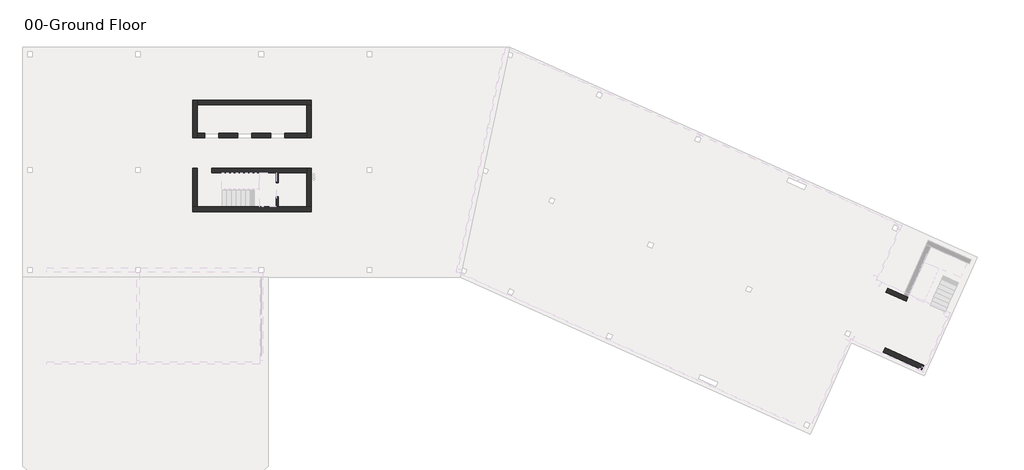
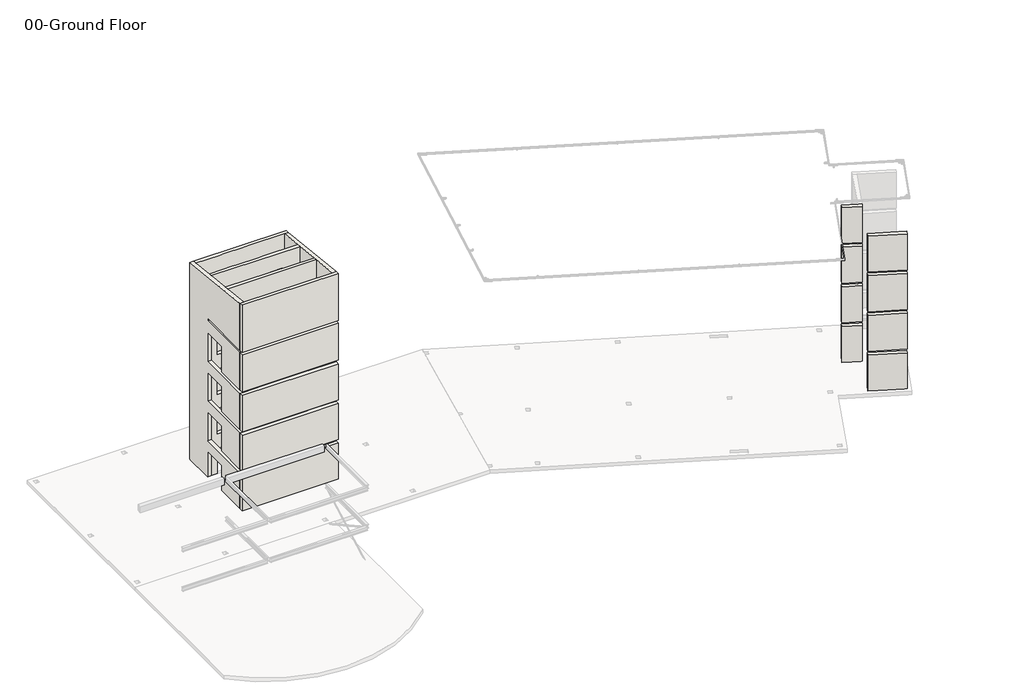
# One storey, part 1 of 5: 9 walls.
"""IFC4 building model written with IfcOpenShell, lengths in millimetres."""

from ifc_helpers import new_model, si_unit, frame, origin, origin_with_axes, place, context, project, spatial, polyline, outline, extrude, faceted_brep, element, save

model = new_model("IFC4")

# Units and contexts
model_context = context("Model", 3, world=origin())
ifc_project = project(units=[si_unit("LENGTHUNIT", "METRE", prefix="MILLI")], contexts=[model_context])

# Site, building, storey
site = spatial("IfcSite", under=ifc_project)
building = spatial("IfcBuilding", under=site)
storey = spatial("IfcBuildingStorey", under=building, Name="00-Ground Floor", Elevation=0.0)

# Walls
placement = place(None, origin())
element("IfcWall", 1, ObjectType="Jumpform RC Wall 12\"", at=placement, inside=storey, context=model_context, shape_type="Brep", body=[
    faceted_brep([(18249.9, -9893.3, 0.0), (17945.1, -9893.3, 0.0), (16103.6, -9893.3, 0.0), (15951.2, -9893.3, 0.0), (10858.5, -9893.3, 0.0), (10553.7, -9893.3, 0.0), (10553.7, -9893.3, 3048.0), (10858.5, -9893.3, 3048.0), (12446.0, -9893.3, 3048.0), (15951.2, -9893.3, 3048.0), (16103.6, -9893.3, 3048.0), (17945.1, -9893.3, 3048.0), (18249.9, -9893.3, 3048.0), (10553.7, -10198.1, 0.0), (18249.9, -10198.1, 0.0), (18249.9, -10198.1, 3048.0), (10553.7, -10198.1, 3048.0)], [[[0, 1, 2, 3, 4, 5, 6, 7, 8, 9, 10, 11, 12]], [[13, 14, 15, 16]], [[5, 4, 3, 2, 1, 0, 14, 13]], [[5, 13, 16, 6]], [[14, 0, 12, 15]], [[8, 7, 6, 16, 15, 12, 11, 10, 9]]]),
    faceted_brep([(10553.7, -9893.3, 17368.9404497), (10858.5, -9893.3, 17368.9404497), (17945.1, -9893.3, 17368.9404497), (18249.9, -9893.3, 17368.9404497), (18249.9, -9893.3, 13411.2), (17945.1, -9893.3, 13411.2), (16103.6, -9893.3, 13411.2), (15951.2, -9893.3, 13411.2), (12446.0, -9893.3, 13411.2), (10858.5, -9893.3, 13411.2), (10553.7, -9893.3, 13411.2), (18249.9, -10198.1, 17400.9762206), (10553.7, -10198.1, 17400.9762206), (10553.7, -10198.1, 13411.2), (18249.9, -10198.1, 13411.2)], [[[0, 1, 2, 3, 4, 5, 6, 7, 8, 9, 10]], [[11, 12, 13, 14]], [[12, 0, 10, 13]], [[3, 11, 14, 4]], [[3, 2, 1, 0, 12, 11]], [[10, 9, 8, 7, 6, 5, 4, 14, 13]]]),
    faceted_brep([(10553.7, -9893.3, 13208.0), (10858.5, -9893.3, 13208.0), (12446.0, -9893.3, 13208.0), (15951.2, -9893.3, 13208.0), (16103.6, -9893.3, 13208.0), (17945.1, -9893.3, 13208.0), (18249.9, -9893.3, 13208.0), (18249.9, -9893.3, 10058.4), (17945.1, -9893.3, 10058.4), (16103.6, -9893.3, 10058.4), (15951.2, -9893.3, 10058.4), (12446.0, -9893.3, 10058.4), (10858.5, -9893.3, 10058.4), (10553.7, -9893.3, 10058.4), (18249.9, -10198.1, 13208.0), (10553.7, -10198.1, 13208.0), (10553.7, -10198.1, 10058.4), (18249.9, -10198.1, 10058.4)], [[[0, 1, 2, 3, 4, 5, 6, 7, 8, 9, 10, 11, 12, 13]], [[14, 15, 16, 17]], [[15, 0, 13, 16]], [[6, 14, 17, 7]], [[2, 1, 0, 15, 14, 6, 5, 4, 3]], [[13, 12, 11, 10, 9, 8, 7, 17, 16]]]),
    faceted_brep([(10553.7, -9893.3, 9753.6), (10858.5, -9893.3, 9753.6), (12446.0, -9893.3, 9753.6), (15951.2, -9893.3, 9753.6), (16103.6, -9893.3, 9753.6), (17945.1, -9893.3, 9753.6), (18249.9, -9893.3, 9753.6), (18249.9, -9893.3, 6705.6), (17945.1, -9893.3, 6705.6), (16103.6, -9893.3, 6705.6), (15951.2, -9893.3, 6705.6), (12446.0, -9893.3, 6705.6), (10858.5, -9893.3, 6705.6), (10553.7, -9893.3, 6705.6), (18249.9, -10198.1, 9753.6), (10553.7, -10198.1, 9753.6), (10553.7, -10198.1, 6705.6), (18249.9, -10198.1, 6705.6)], [[[0, 1, 2, 3, 4, 5, 6, 7, 8, 9, 10, 11, 12, 13]], [[14, 15, 16, 17]], [[15, 0, 13, 16]], [[6, 14, 17, 7]], [[2, 1, 0, 15, 14, 6, 5, 4, 3]], [[13, 12, 11, 10, 9, 8, 7, 17, 16]]]),
    faceted_brep([(10553.7, -9893.3, 6400.8), (10858.5, -9893.3, 6400.8), (12446.0, -9893.3, 6400.8), (15951.2, -9893.3, 6400.8), (16103.6, -9893.3, 6400.8), (17945.1, -9893.3, 6400.8), (18249.9, -9893.3, 6400.8), (18249.9, -9893.3, 3352.8), (17945.1, -9893.3, 3352.8), (16103.6, -9893.3, 3352.8), (15951.2, -9893.3, 3352.8), (12446.0, -9893.3, 3352.8), (10858.5, -9893.3, 3352.8), (10553.7, -9893.3, 3352.8), (18249.9, -10198.1, 6400.8), (10553.7, -10198.1, 6400.8), (10553.7, -10198.1, 3352.8), (18249.9, -10198.1, 3352.8)], [[[0, 1, 2, 3, 4, 5, 6, 7, 8, 9, 10, 11, 12, 13]], [[14, 15, 16, 17]], [[15, 0, 13, 16]], [[6, 14, 17, 7]], [[2, 1, 0, 15, 14, 6, 5, 4, 3]], [[13, 12, 11, 10, 9, 8, 7, 17, 16]]]),
])
element("IfcWall", 2, ObjectType="Jumpform RC Wall 12\"", at=placement, inside=storey, context=model_context, shape_type="Brep", body=[
    faceted_brep([(10858.5, -2984.5, 16642.7963091), (10858.5, -3289.3, 16674.83208), (10858.5, -5118.1, 16867.0467055), (10858.5, -5422.9, 16899.0824764), (10858.5, -7378.7, 17104.6453397), (10858.5, -7683.5, 17136.6811106), (10858.5, -9893.3, 17368.9404497), (10858.5, -9893.3, 13411.2), (10858.5, -5422.9, 13411.2), (10858.5, -5422.9, 13208.0), (10858.5, -7378.7, 13208.0), (10858.5, -7683.5, 13208.0), (10858.5, -9893.3, 13208.0), (10858.5, -9893.3, 10058.4), (10858.5, -7378.7, 10058.4), (10858.5, -7378.7, 12192.0), (10858.5, -5422.9, 12192.0), (10858.5, -5422.9, 9753.6), (10858.5, -7378.7, 9753.6), (10858.5, -7683.5, 9753.6), (10858.5, -9893.3, 9753.6), (10858.5, -9893.3, 6705.6), (10858.5, -7378.7, 6705.6), (10858.5, -7378.7, 8839.2), (10858.5, -5422.9, 8839.2), (10858.5, -5422.9, 6400.8), (10858.5, -7378.7, 6400.8), (10858.5, -7683.5, 6400.8), (10858.5, -9893.3, 6400.8), (10858.5, -9893.3, 3352.8), (10858.5, -7378.7, 3352.8), (10858.5, -7378.7, 5486.4), (10858.5, -5422.9, 5486.4), (10858.5, -5422.9, 3048.0), (10858.5, -7378.7, 3048.0), (10858.5, -7683.5, 3048.0), (10858.5, -9893.3, 3048.0), (10858.5, -9893.3, 0.0), (10858.5, -7378.7, 0.0), (10858.5, -7378.7, 2133.6), (10858.5, -5422.9, 2133.6), (10858.5, -5422.9, 0.0), (10858.5, -5118.1, 0.0), (10858.5, -3289.3, 0.0), (10858.5, -2984.5, 0.0), (10858.5, -2984.5, 3048.0), (10858.5, -2984.5, 3352.8), (10858.5, -2984.5, 6400.8), (10858.5, -2984.5, 6705.6), (10858.5, -2984.5, 9753.6), (10858.5, -2984.5, 10058.4), (10553.7, -9893.3, 17368.9404497), (10553.7, -2984.5, 16642.7963091), (10553.7, -2984.5, 10058.4), (10553.7, -2984.5, 9753.6), (10553.7, -2984.5, 6705.6), (10553.7, -2984.5, 6400.8), (10553.7, -2984.5, 3352.8), (10553.7, -2984.5, 3048.0), (10553.7, -2984.5, 0.0), (10553.7, -5422.9, 0.0), (10553.7, -5422.9, 2133.6), (10553.7, -7378.7, 2133.6), (10553.7, -7378.7, 0.0), (10553.7, -9893.3, 0.0), (10553.7, -9893.3, 3048.0), (10553.7, -5422.9, 3048.0), (10553.7, -5422.9, 3352.8), (10553.7, -5422.9, 5486.4), (10553.7, -7378.7, 5486.4), (10553.7, -7378.7, 3352.8), (10553.7, -9893.3, 3352.8), (10553.7, -9893.3, 6400.8), (10553.7, -5422.9, 6400.8), (10553.7, -5422.9, 6705.6), (10553.7, -5422.9, 8839.2), (10553.7, -7378.7, 8839.2), (10553.7, -7378.7, 6705.6), (10553.7, -9893.3, 6705.6), (10553.7, -9893.3, 9753.6), (10553.7, -5422.9, 9753.6), (10553.7, -5422.9, 10058.4), (10553.7, -5422.9, 12192.0), (10553.7, -7378.7, 12192.0), (10553.7, -7378.7, 10058.4), (10553.7, -9893.3, 10058.4), (10553.7, -9893.3, 13208.0), (10553.7, -5422.9, 13208.0), (10553.7, -5422.9, 13411.2), (10553.7, -9893.3, 13411.2)], [[[0, 1, 2, 3, 4, 5, 6, 7, 8, 9, 10, 11, 12, 13, 14, 15, 16, 17, 18, 19, 20, 21, 22, 23, 24, 25, 26, 27, 28, 29, 30, 31, 32, 33, 34, 35, 36, 37, 38, 39, 40, 41, 42, 43, 44, 45, 46, 47, 48, 49, 50]], [[51, 52, 53, 54, 55, 56, 57, 58, 59, 60, 61, 62, 63, 64, 65, 66, 67, 68, 69, 70, 71, 72, 73, 74, 75, 76, 77, 78, 79, 80, 81, 82, 83, 84, 85, 86, 87, 88, 89]], [[37, 64, 63, 38]], [[59, 44, 43, 42, 41, 60]], [[64, 37, 36, 65]], [[6, 51, 89, 7]], [[12, 86, 85, 13]], [[20, 79, 78, 21]], [[28, 72, 71, 29]], [[44, 59, 58, 57, 56, 55, 54, 53, 52, 0, 50, 49, 48, 47, 46, 45]], [[6, 5, 4, 3, 2, 1, 0, 52, 51]], [[41, 40, 61, 60]], [[39, 38, 63, 62]], [[40, 39, 62, 61]], [[32, 68, 67, 66, 33]], [[31, 30, 70, 69]], [[32, 31, 69, 68]], [[24, 75, 74, 73, 25]], [[23, 22, 77, 76]], [[24, 23, 76, 75]], [[16, 82, 81, 80, 17]], [[15, 14, 84, 83]], [[16, 15, 83, 82]], [[9, 87, 86, 12, 11, 10]], [[88, 8, 7, 89]], [[87, 9, 8, 88]], [[17, 80, 79, 20, 19, 18]], [[14, 13, 85, 84]], [[25, 73, 72, 28, 27, 26]], [[22, 21, 78, 77]], [[33, 66, 65, 36, 35, 34]], [[30, 29, 71, 70]]]),
])
element("IfcWall", 3, ObjectType="Jumpform RC Wall 12\"", at=placement, inside=storey, context=model_context, shape_type="Brep", body=[
    faceted_brep([(10858.5, -3289.3, 0.0), (17945.1, -3289.3, 0.0), (18249.9, -3289.3, 0.0), (18249.9, -3289.3, 3048.0), (17945.1, -3289.3, 3048.0), (17030.7, -3289.3, 3048.0), (17030.7, -3289.3, 3352.8), (17945.1, -3289.3, 3352.8), (18249.9, -3289.3, 3352.8), (18249.9, -3289.3, 6400.8), (17945.1, -3289.3, 6400.8), (17030.7, -3289.3, 6400.8), (17030.7, -3289.3, 6705.6), (17945.1, -3289.3, 6705.6), (18249.9, -3289.3, 6705.6), (18249.9, -3289.3, 9753.6), (17945.1, -3289.3, 9753.6), (17030.7, -3289.3, 9753.6), (17030.7, -3289.3, 10058.4), (17945.1, -3289.3, 10058.4), (18249.9, -3289.3, 10058.4), (18249.9, -3289.3, 13208.0), (17945.1, -3289.3, 13208.0), (17030.7, -3289.3, 13208.0), (17030.7, -3289.3, 13411.2), (17945.1, -3289.3, 13411.2), (18249.9, -3289.3, 13411.2), (18249.9, -3289.3, 16674.83208), (17945.1, -3289.3, 16674.83208), (15151.1, -3289.3, 16674.83208), (14846.3, -3289.3, 16674.83208), (13017.5, -3289.3, 16674.83208), (12712.7, -3289.3, 16674.83208), (10858.5, -3289.3, 16674.83208), (18249.9, -2984.5, 0.0), (10858.5, -2984.5, 0.0), (10858.5, -2984.5, 3048.0), (10858.5, -2984.5, 3352.8), (10858.5, -2984.5, 6400.8), (10858.5, -2984.5, 6705.6), (10858.5, -2984.5, 9753.6), (10858.5, -2984.5, 10058.4), (10858.5, -2984.5, 16642.7963091), (18249.9, -2984.5, 16642.7963091), (18249.9, -2984.5, 13411.2), (17030.7, -2984.5, 13411.2), (17030.7, -2984.5, 13208.0), (18249.9, -2984.5, 13208.0), (18249.9, -2984.5, 10058.4), (17030.7, -2984.5, 10058.4), (17030.7, -2984.5, 9753.6), (18249.9, -2984.5, 9753.6), (18249.9, -2984.5, 6705.6), (17030.7, -2984.5, 6705.6), (17030.7, -2984.5, 6400.8), (18249.9, -2984.5, 6400.8), (18249.9, -2984.5, 3352.8), (17030.7, -2984.5, 3352.8), (17030.7, -2984.5, 3048.0), (18249.9, -2984.5, 3048.0)], [[[0, 1, 2, 3, 4, 5, 6, 7, 8, 9, 10, 11, 12, 13, 14, 15, 16, 17, 18, 19, 20, 21, 22, 23, 24, 25, 26, 27, 28, 29, 30, 31, 32, 33]], [[34, 35, 36, 37, 38, 39, 40, 41, 42, 43, 44, 45, 46, 47, 48, 49, 50, 51, 52, 53, 54, 55, 56, 57, 58, 59]], [[2, 1, 0, 35, 34]], [[0, 33, 42, 41, 40, 39, 38, 37, 36, 35]], [[43, 27, 26, 44]], [[47, 21, 20, 48]], [[51, 15, 14, 52]], [[55, 9, 8, 56]], [[2, 34, 59, 3]], [[33, 32, 31, 30, 29, 28, 27, 43, 42]], [[46, 23, 22, 21, 47]], [[24, 45, 44, 26, 25]], [[23, 46, 45, 24]], [[50, 17, 16, 15, 51]], [[18, 49, 48, 20, 19]], [[17, 50, 49, 18]], [[54, 11, 10, 9, 55]], [[12, 53, 52, 14, 13]], [[11, 54, 53, 12]], [[58, 5, 4, 3, 59]], [[6, 57, 56, 8, 7]], [[5, 58, 57, 6]]]),
])
element("IfcWall", 4, ObjectType="Jumpform RC Wall 12\"", at=placement, inside=storey, context=model_context, shape_type="Brep", body=[
    faceted_brep([(17945.1, -9893.3, 17368.9404497), (17945.1, -7683.5, 17136.6811106), (17945.1, -7378.7, 17104.6453397), (17945.1, -5422.9, 16899.0824764), (17945.1, -5118.1, 16867.0467055), (17945.1, -3289.3, 16674.83208), (17945.1, -3289.3, 13411.2), (17945.1, -5118.1, 13411.2), (17945.1, -5422.9, 13411.2), (17945.1, -5422.9, 15544.8), (17945.1, -7378.7, 15544.8), (17945.1, -7378.7, 13411.2), (17945.1, -9893.3, 13411.2), (18249.9, -3289.3, 16674.83208), (18249.9, -9893.3, 17368.9404497), (18249.9, -9893.3, 13411.2), (18249.9, -7378.7, 13411.2), (18249.9, -7378.7, 15544.8), (18249.9, -5422.9, 15544.8), (18249.9, -5422.9, 13411.2), (18249.9, -3289.3, 13411.2)], [[[0, 1, 2, 3, 4, 5, 6, 7, 8, 9, 10, 11, 12]], [[13, 14, 15, 16, 17, 18, 19, 20]], [[14, 0, 12, 15]], [[5, 13, 20, 6]], [[5, 4, 3, 2, 1, 0, 14, 13]], [[12, 11, 16, 15]], [[20, 19, 8, 7, 6]], [[19, 18, 9, 8]], [[17, 16, 11, 10]], [[18, 17, 10, 9]]]),
    faceted_brep([(17945.1, -5422.9, 0.0), (17945.1, -5422.9, 2133.6), (17945.1, -7378.7, 2133.6), (17945.1, -7378.7, 0.0), (17945.1, -7683.5, 0.0), (17945.1, -9893.3, 0.0), (17945.1, -9893.3, 3048.0), (17945.1, -5422.9, 3048.0), (17945.1, -5118.1, 3048.0), (17945.1, -3289.3, 3048.0), (17945.1, -3289.3, 0.0), (17945.1, -5118.1, 0.0), (18249.9, -5422.9, 2133.6), (18249.9, -5422.9, 0.0), (18249.9, -3289.3, 0.0), (18249.9, -3289.3, 3048.0), (18249.9, -9893.3, 3048.0), (18249.9, -9893.3, 0.0), (18249.9, -7378.7, 0.0), (18249.9, -7378.7, 2133.6)], [[[0, 1, 2, 3, 4, 5, 6, 7, 8, 9, 10, 11]], [[12, 13, 14, 15, 16, 17, 18, 19]], [[10, 14, 13, 0, 11]], [[17, 5, 4, 3, 18]], [[5, 17, 16, 6]], [[14, 10, 9, 15]], [[13, 12, 1, 0]], [[19, 18, 3, 2]], [[12, 19, 2, 1]], [[9, 8, 7, 6, 16, 15]]]),
    faceted_brep([(17945.1, -5422.9, 3352.8), (17945.1, -5422.9, 5486.4), (17945.1, -7378.7, 5486.4), (17945.1, -7378.7, 3352.8), (17945.1, -9893.3, 3352.8), (17945.1, -9893.3, 6400.8), (17945.1, -5422.9, 6400.8), (17945.1, -5118.1, 6400.8), (17945.1, -3289.3, 6400.8), (17945.1, -3289.3, 3352.8), (17945.1, -5118.1, 3352.8), (18249.9, -5422.9, 5486.4), (18249.9, -5422.9, 3352.8), (18249.9, -3289.3, 3352.8), (18249.9, -3289.3, 6400.8), (18249.9, -9893.3, 6400.8), (18249.9, -9893.3, 3352.8), (18249.9, -7378.7, 3352.8), (18249.9, -7378.7, 5486.4)], [[[0, 1, 2, 3, 4, 5, 6, 7, 8, 9, 10]], [[11, 12, 13, 14, 15, 16, 17, 18]], [[15, 5, 4, 16]], [[8, 14, 13, 9]], [[12, 11, 1, 0]], [[18, 17, 3, 2]], [[11, 18, 2, 1]], [[8, 7, 6, 5, 15, 14]], [[4, 3, 17, 16]], [[0, 10, 9, 13, 12]]]),
    faceted_brep([(17945.1, -5422.9, 6705.6), (17945.1, -5422.9, 8839.2), (17945.1, -7378.7, 8839.2), (17945.1, -7378.7, 6705.6), (17945.1, -9893.3, 6705.6), (17945.1, -9893.3, 9753.6), (17945.1, -5422.9, 9753.6), (17945.1, -5118.1, 9753.6), (17945.1, -3289.3, 9753.6), (17945.1, -3289.3, 6705.6), (17945.1, -5118.1, 6705.6), (18249.9, -5422.9, 8839.2), (18249.9, -5422.9, 6705.6), (18249.9, -3289.3, 6705.6), (18249.9, -3289.3, 9753.6), (18249.9, -9893.3, 9753.6), (18249.9, -9893.3, 6705.6), (18249.9, -7378.7, 6705.6), (18249.9, -7378.7, 8839.2)], [[[0, 1, 2, 3, 4, 5, 6, 7, 8, 9, 10]], [[11, 12, 13, 14, 15, 16, 17, 18]], [[15, 5, 4, 16]], [[8, 14, 13, 9]], [[12, 11, 1, 0]], [[18, 17, 3, 2]], [[11, 18, 2, 1]], [[8, 7, 6, 5, 15, 14]], [[4, 3, 17, 16]], [[0, 10, 9, 13, 12]]]),
    faceted_brep([(17945.1, -5422.9, 10058.4), (17945.1, -5422.9, 12192.0), (17945.1, -7378.7, 12192.0), (17945.1, -7378.7, 10058.4), (17945.1, -9893.3, 10058.4), (17945.1, -9893.3, 13208.0), (17945.1, -5422.9, 13208.0), (17945.1, -5118.1, 13208.0), (17945.1, -3289.3, 13208.0), (17945.1, -3289.3, 10058.4), (17945.1, -5118.1, 10058.4), (18249.9, -5422.9, 12192.0), (18249.9, -5422.9, 10058.4), (18249.9, -3289.3, 10058.4), (18249.9, -3289.3, 13208.0), (18249.9, -9893.3, 13208.0), (18249.9, -9893.3, 10058.4), (18249.9, -7378.7, 10058.4), (18249.9, -7378.7, 12192.0)], [[[0, 1, 2, 3, 4, 5, 6, 7, 8, 9, 10]], [[11, 12, 13, 14, 15, 16, 17, 18]], [[15, 5, 4, 16]], [[8, 14, 13, 9]], [[12, 11, 1, 0]], [[18, 17, 3, 2]], [[11, 18, 2, 1]], [[8, 7, 6, 5, 15, 14]], [[4, 3, 17, 16]], [[0, 10, 9, 13, 12]]]),
])
element("IfcWall", 5, ObjectType="Jumpform RC Wall 12\"", at=placement, inside=storey, context=model_context, shape_type="Brep", body=[
    faceted_brep([(17945.1, -5422.9, 16899.0824764), (10858.5, -5422.9, 16899.0824764), (10858.5, -5422.9, 13411.2), (10858.5, -5422.9, 13208.0), (10858.5, -5422.9, 12192.0), (10858.5, -5422.9, 10058.4), (10858.5, -5422.9, 9753.6), (10858.5, -5422.9, 8839.2), (10858.5, -5422.9, 6705.6), (10858.5, -5422.9, 6400.8), (10858.5, -5422.9, 5486.4), (10858.5, -5422.9, 3352.8), (10858.5, -5422.9, 3048.0), (10858.5, -5422.9, 2133.6), (10858.5, -5422.9, 0.0), (11328.4, -5422.9, 0.0), (11328.4, -5422.9, 2133.6), (12242.8, -5422.9, 2133.6), (12242.8, -5422.9, 0.0), (13474.7, -5422.9, 0.0), (13474.7, -5422.9, 2133.6), (14389.1, -5422.9, 2133.6), (14389.1, -5422.9, 0.0), (15608.3, -5422.9, 0.0), (15608.3, -5422.9, 2133.6), (16522.7, -5422.9, 2133.6), (16522.7, -5422.9, 0.0), (17945.1, -5422.9, 0.0), (17945.1, -5422.9, 2133.6), (17945.1, -5422.9, 3048.0), (17030.7, -5422.9, 3048.0), (17030.7, -5422.9, 3352.8), (17945.1, -5422.9, 3352.8), (17945.1, -5422.9, 5486.4), (17945.1, -5422.9, 6400.8), (17030.7, -5422.9, 6400.8), (17030.7, -5422.9, 6705.6), (17945.1, -5422.9, 6705.6), (17945.1, -5422.9, 8839.2), (17945.1, -5422.9, 9753.6), (17030.7, -5422.9, 9753.6), (17030.7, -5422.9, 10058.4), (17945.1, -5422.9, 10058.4), (17945.1, -5422.9, 12192.0), (17945.1, -5422.9, 13208.0), (17030.7, -5422.9, 13208.0), (17030.7, -5422.9, 13411.2), (17945.1, -5422.9, 13411.2), (17945.1, -5422.9, 15544.8), (15608.3, -5422.9, 3352.8), (15608.3, -5422.9, 5486.4), (16522.7, -5422.9, 5486.4), (16522.7, -5422.9, 3352.8), (13474.7, -5422.9, 3352.8), (13474.7, -5422.9, 5486.4), (14389.1, -5422.9, 5486.4), (14389.1, -5422.9, 3352.8), (11328.4, -5422.9, 3352.8), (11328.4, -5422.9, 5486.4), (12242.8, -5422.9, 5486.4), (12242.8, -5422.9, 3352.8), (15608.3, -5422.9, 6705.6), (15608.3, -5422.9, 8839.2), (16522.7, -5422.9, 8839.2), (16522.7, -5422.9, 6705.6), (13474.7, -5422.9, 6705.6), (13474.7, -5422.9, 8839.2), (14389.1, -5422.9, 8839.2), (14389.1, -5422.9, 6705.6), (11328.4, -5422.9, 6705.6), (11328.4, -5422.9, 8839.2), (12242.8, -5422.9, 8839.2), (12242.8, -5422.9, 6705.6), (15608.3, -5422.9, 10058.4), (15608.3, -5422.9, 12192.0), (16522.7, -5422.9, 12192.0), (16522.7, -5422.9, 10058.4), (13474.7, -5422.9, 10058.4), (13474.7, -5422.9, 12192.0), (14389.1, -5422.9, 12192.0), (14389.1, -5422.9, 10058.4), (11328.4, -5422.9, 10058.4), (11328.4, -5422.9, 12192.0), (12242.8, -5422.9, 12192.0), (12242.8, -5422.9, 10058.4), (15608.3, -5422.9, 13411.2), (15608.3, -5422.9, 15544.8), (16522.7, -5422.9, 15544.8), (16522.7, -5422.9, 13411.2), (13474.7, -5422.9, 13411.2), (13474.7, -5422.9, 15544.8), (14389.1, -5422.9, 15544.8), (14389.1, -5422.9, 13411.2), (11328.4, -5422.9, 13411.2), (11328.4, -5422.9, 15544.8), (12242.8, -5422.9, 15544.8), (12242.8, -5422.9, 13411.2), (10858.5, -5118.1, 0.0), (10858.5, -5118.1, 16867.0467055), (12712.7, -5118.1, 16867.0467055), (13017.5, -5118.1, 16867.0467055), (14846.3, -5118.1, 16867.0467055), (15151.1, -5118.1, 16867.0467055), (17945.1, -5118.1, 16867.0467055), (17945.1, -5118.1, 13411.2), (17030.7, -5118.1, 13411.2), (17030.7, -5118.1, 13208.0), (17945.1, -5118.1, 13208.0), (17945.1, -5118.1, 10058.4), (17030.7, -5118.1, 10058.4), (17030.7, -5118.1, 9753.6), (17945.1, -5118.1, 9753.6), (17945.1, -5118.1, 6705.6), (17030.7, -5118.1, 6705.6), (17030.7, -5118.1, 6400.8), (17945.1, -5118.1, 6400.8), (17945.1, -5118.1, 3352.8), (17030.7, -5118.1, 3352.8), (17030.7, -5118.1, 3048.0), (17945.1, -5118.1, 3048.0), (17945.1, -5118.1, 0.0), (16522.7, -5118.1, 0.0), (16522.7, -5118.1, 2133.6), (15608.3, -5118.1, 2133.6), (15608.3, -5118.1, 0.0), (15151.1, -5118.1, 0.0), (14846.3, -5118.1, 0.0), (14389.1, -5118.1, 0.0), (14389.1, -5118.1, 2133.6), (13474.7, -5118.1, 2133.6), (13474.7, -5118.1, 0.0), (13017.5, -5118.1, 0.0), (12712.7, -5118.1, 0.0), (12242.8, -5118.1, 0.0), (12242.8, -5118.1, 2133.6), (11328.4, -5118.1, 2133.6), (11328.4, -5118.1, 0.0), (15608.3, -5118.1, 5486.4), (15608.3, -5118.1, 3352.8), (16522.7, -5118.1, 3352.8), (16522.7, -5118.1, 5486.4), (13474.7, -5118.1, 5486.4), (13474.7, -5118.1, 3352.8), (14389.1, -5118.1, 3352.8), (14389.1, -5118.1, 5486.4), (11328.4, -5118.1, 5486.4), (11328.4, -5118.1, 3352.8), (12242.8, -5118.1, 3352.8), (12242.8, -5118.1, 5486.4), (15608.3, -5118.1, 8839.2), (15608.3, -5118.1, 6705.6), (16522.7, -5118.1, 6705.6), (16522.7, -5118.1, 8839.2), (13474.7, -5118.1, 8839.2), (13474.7, -5118.1, 6705.6), (14389.1, -5118.1, 6705.6), (14389.1, -5118.1, 8839.2), (11328.4, -5118.1, 8839.2), (11328.4, -5118.1, 6705.6), (12242.8, -5118.1, 6705.6), (12242.8, -5118.1, 8839.2), (15608.3, -5118.1, 12192.0), (15608.3, -5118.1, 10058.4), (16522.7, -5118.1, 10058.4), (16522.7, -5118.1, 12192.0), (13474.7, -5118.1, 12192.0), (13474.7, -5118.1, 10058.4), (14389.1, -5118.1, 10058.4), (14389.1, -5118.1, 12192.0), (11328.4, -5118.1, 12192.0), (11328.4, -5118.1, 10058.4), (12242.8, -5118.1, 10058.4), (12242.8, -5118.1, 12192.0), (15608.3, -5118.1, 15544.8), (15608.3, -5118.1, 13411.2), (16522.7, -5118.1, 13411.2), (16522.7, -5118.1, 15544.8), (13474.7, -5118.1, 15544.8), (13474.7, -5118.1, 13411.2), (14389.1, -5118.1, 13411.2), (14389.1, -5118.1, 15544.8), (11328.4, -5118.1, 15544.8), (11328.4, -5118.1, 13411.2), (12242.8, -5118.1, 13411.2), (12242.8, -5118.1, 15544.8), (17945.1, -5168.9, 0.0), (10858.5, -5168.9, 0.0)], [[[0, 1, 2, 3, 4, 5, 6, 7, 8, 9, 10, 11, 12, 13, 14, 15, 16, 17, 18, 19, 20, 21, 22, 23, 24, 25, 26, 27, 28, 29, 30, 31, 32, 33, 34, 35, 36, 37, 38, 39, 40, 41, 42, 43, 44, 45, 46, 47, 48], [49, 50, 51, 52], [53, 54, 55, 56], [57, 58, 59, 60], [61, 62, 63, 64], [65, 66, 67, 68], [69, 70, 71, 72], [73, 74, 75, 76], [77, 78, 79, 80], [81, 82, 83, 84], [85, 86, 87, 88], [89, 90, 91, 92], [93, 94, 95, 96]], [[97, 98, 99, 100, 101, 102, 103, 104, 105, 106, 107, 108, 109, 110, 111, 112, 113, 114, 115, 116, 117, 118, 119, 120, 121, 122, 123, 124, 125, 126, 127, 128, 129, 130, 131, 132, 133, 134, 135, 136], [137, 138, 139, 140], [141, 142, 143, 144], [145, 146, 147, 148], [149, 150, 151, 152], [153, 154, 155, 156], [157, 158, 159, 160], [161, 162, 163, 164], [165, 166, 167, 168], [169, 170, 171, 172], [173, 174, 175, 176], [177, 178, 179, 180], [181, 182, 183, 184]], [[18, 133, 132, 131, 130, 19]], [[22, 127, 126, 125, 124, 23]], [[120, 185, 27, 26, 121]], [[14, 186, 97, 136, 15]], [[98, 97, 186, 14, 13, 12, 11, 10, 9, 8, 7, 6, 5, 4, 3, 2, 1]], [[103, 0, 48, 47, 104]], [[107, 44, 43, 42, 108]], [[111, 39, 38, 37, 112]], [[115, 34, 33, 32, 116]], [[27, 185, 120, 119, 29, 28]], [[1, 0, 103, 102, 101, 100, 99, 98]], [[136, 135, 16, 15]], [[134, 133, 18, 17]], [[135, 134, 17, 16]], [[130, 129, 20, 19]], [[128, 127, 22, 21]], [[129, 128, 21, 20]], [[124, 123, 24, 23]], [[122, 121, 26, 25]], [[123, 122, 25, 24]], [[138, 137, 50, 49]], [[139, 138, 49, 52]], [[140, 139, 52, 51]], [[137, 140, 51, 50]], [[142, 141, 54, 53]], [[143, 142, 53, 56]], [[144, 143, 56, 55]], [[141, 144, 55, 54]], [[146, 145, 58, 57]], [[147, 146, 57, 60]], [[148, 147, 60, 59]], [[145, 148, 59, 58]], [[150, 149, 62, 61]], [[151, 150, 61, 64]], [[152, 151, 64, 63]], [[149, 152, 63, 62]], [[154, 153, 66, 65]], [[155, 154, 65, 68]], [[156, 155, 68, 67]], [[153, 156, 67, 66]], [[158, 157, 70, 69]], [[159, 158, 69, 72]], [[160, 159, 72, 71]], [[157, 160, 71, 70]], [[162, 161, 74, 73]], [[163, 162, 73, 76]], [[164, 163, 76, 75]], [[161, 164, 75, 74]], [[166, 165, 78, 77]], [[167, 166, 77, 80]], [[168, 167, 80, 79]], [[165, 168, 79, 78]], [[170, 169, 82, 81]], [[171, 170, 81, 84]], [[172, 171, 84, 83]], [[169, 172, 83, 82]], [[174, 173, 86, 85]], [[175, 174, 85, 88]], [[176, 175, 88, 87]], [[173, 176, 87, 86]], [[178, 177, 90, 89]], [[179, 178, 89, 92]], [[180, 179, 92, 91]], [[177, 180, 91, 90]], [[182, 181, 94, 93]], [[183, 182, 93, 96]], [[184, 183, 96, 95]], [[181, 184, 95, 94]], [[106, 45, 44, 107]], [[46, 105, 104, 47]], [[45, 106, 105, 46]], [[110, 40, 39, 111]], [[41, 109, 108, 42]], [[40, 110, 109, 41]], [[114, 35, 34, 115]], [[36, 113, 112, 37]], [[35, 114, 113, 36]], [[118, 30, 29, 119]], [[31, 117, 116, 32]], [[30, 118, 117, 31]]]),
])
element("IfcWall", 6, ObjectType="Jumpform RC Wall 12\"", at=placement, inside=storey, context=model_context, shape_type="Brep", body=[
    faceted_brep([(17945.1, -7683.5, 17136.6811106), (10858.5, -7683.5, 17136.6811106), (10858.5, -7683.5, 15544.8), (11772.9, -7683.5, 15544.8), (11772.9, -7683.5, 13411.2), (12446.0, -7683.5, 13411.2), (12446.0, -7683.5, 13208.0), (10858.5, -7683.5, 13208.0), (10858.5, -7683.5, 12192.0), (11772.9, -7683.5, 12192.0), (11772.9, -7683.5, 10058.4), (12446.0, -7683.5, 10058.4), (12446.0, -7683.5, 9753.6), (10858.5, -7683.5, 9753.6), (10858.5, -7683.5, 8839.2), (11772.9, -7683.5, 8839.2), (11772.9, -7683.5, 6705.6), (12446.0, -7683.5, 6705.6), (12446.0, -7683.5, 6400.8), (10858.5, -7683.5, 6400.8), (10858.5, -7683.5, 5486.4), (11772.9, -7683.5, 5486.4), (11772.9, -7683.5, 3352.8), (12446.0, -7683.5, 3352.8), (12446.0, -7683.5, 3048.0), (10858.5, -7683.5, 3048.0), (10858.5, -7683.5, 2133.6), (11772.9, -7683.5, 2133.6), (11772.9, -7683.5, 0.0), (15951.2, -7683.5, 0.0), (16103.6, -7683.5, 0.0), (17945.1, -7683.5, 0.0), (17945.1, -7683.5, 3048.0), (16103.6, -7683.5, 3048.0), (15951.2, -7683.5, 3048.0), (15951.2, -7683.5, 3352.8), (16103.6, -7683.5, 3352.8), (17945.1, -7683.5, 3352.8), (17945.1, -7683.5, 6400.8), (16103.6, -7683.5, 6400.8), (15951.2, -7683.5, 6400.8), (15951.2, -7683.5, 6705.6), (16103.6, -7683.5, 6705.6), (17945.1, -7683.5, 6705.6), (17945.1, -7683.5, 9753.6), (16103.6, -7683.5, 9753.6), (15951.2, -7683.5, 9753.6), (15951.2, -7683.5, 10058.4), (16103.6, -7683.5, 10058.4), (17945.1, -7683.5, 10058.4), (17945.1, -7683.5, 13208.0), (16103.6, -7683.5, 13208.0), (15951.2, -7683.5, 13208.0), (15951.2, -7683.5, 13411.2), (16103.6, -7683.5, 13411.2), (17945.1, -7683.5, 13411.2), (10858.5, -7378.7, 17104.6453397), (17945.1, -7378.7, 17104.6453397), (17945.1, -7378.7, 15544.8), (17945.1, -7378.7, 13411.2), (11772.9, -7378.7, 13411.2), (11772.9, -7378.7, 15544.8), (10858.5, -7378.7, 15544.8), (17945.1, -7378.7, 0.0), (11772.9, -7378.7, 0.0), (11772.9, -7378.7, 2133.6), (10858.5, -7378.7, 2133.6), (10858.5, -7378.7, 3048.0), (17945.1, -7378.7, 3048.0), (17945.1, -7378.7, 2133.6), (11772.9, -7378.7, 3352.8), (11772.9, -7378.7, 5486.4), (10858.5, -7378.7, 5486.4), (10858.5, -7378.7, 6400.8), (17945.1, -7378.7, 6400.8), (17945.1, -7378.7, 5486.4), (17945.1, -7378.7, 3352.8), (11772.9, -7378.7, 6705.6), (11772.9, -7378.7, 8839.2), (10858.5, -7378.7, 8839.2), (10858.5, -7378.7, 9753.6), (17945.1, -7378.7, 9753.6), (17945.1, -7378.7, 8839.2), (17945.1, -7378.7, 6705.6), (11772.9, -7378.7, 10058.4), (11772.9, -7378.7, 12192.0), (10858.5, -7378.7, 12192.0), (10858.5, -7378.7, 13208.0), (17945.1, -7378.7, 13208.0), (17945.1, -7378.7, 12192.0), (17945.1, -7378.7, 10058.4), (12446.0, -7633.3081651, 13208.0), (15951.2, -7633.3081651, 13208.0), (15951.2, -7633.3081651, 13411.2), (12446.0, -7633.3081651, 13411.2), (12446.0, -7633.3081651, 3048.0), (15951.2, -7633.3081651, 3048.0), (15951.2, -7633.3081651, 3352.8), (12446.0, -7633.3081651, 3352.8), (12446.0, -7633.3081651, 6400.8), (15951.2, -7633.3081651, 6400.8), (15951.2, -7633.3081651, 6705.6), (12446.0, -7633.3081651, 6705.6), (12446.0, -7633.3081651, 9753.6), (15951.2, -7633.3081651, 9753.6), (15951.2, -7633.3081651, 10058.4), (12446.0, -7633.3081651, 10058.4)], [[[0, 1, 2, 3, 4, 5, 6, 7, 8, 9, 10, 11, 12, 13, 14, 15, 16, 17, 18, 19, 20, 21, 22, 23, 24, 25, 26, 27, 28, 29, 30, 31, 32, 33, 34, 35, 36, 37, 38, 39, 40, 41, 42, 43, 44, 45, 46, 47, 48, 49, 50, 51, 52, 53, 54, 55]], [[56, 57, 58, 59, 60, 61, 62]], [[63, 64, 65, 66, 67, 68, 69]], [[70, 71, 72, 73, 74, 75, 76]], [[77, 78, 79, 80, 81, 82, 83]], [[84, 85, 86, 87, 88, 89, 90]], [[63, 31, 30, 29, 28, 64]], [[1, 56, 62, 2]], [[66, 26, 25, 67]], [[72, 20, 19, 73]], [[79, 14, 13, 80]], [[86, 8, 7, 87]], [[31, 63, 69, 68, 32]], [[57, 0, 55, 59, 58]], [[88, 50, 49, 90, 89]], [[37, 76, 75, 74, 38]], [[43, 83, 82, 81, 44]], [[1, 0, 57, 56]], [[27, 65, 64, 28]], [[65, 27, 26, 66]], [[71, 70, 22, 21]], [[72, 71, 21, 20]], [[78, 77, 16, 15]], [[79, 78, 15, 14]], [[85, 84, 10, 9]], [[86, 85, 9, 8]], [[61, 60, 4, 3]], [[62, 61, 3, 2]], [[7, 6, 91, 92, 52, 51, 50, 88, 87]], [[5, 4, 60, 59, 55, 54, 53, 93, 94]], [[25, 24, 95, 96, 34, 33, 32, 68, 67]], [[23, 22, 70, 76, 37, 36, 35, 97, 98]], [[19, 18, 99, 100, 40, 39, 38, 74, 73]], [[17, 16, 77, 83, 43, 42, 41, 101, 102]], [[103, 104, 46, 45, 44, 81, 80, 13, 12]], [[105, 106, 11, 10, 84, 90, 49, 48, 47]], [[92, 91, 94, 93]], [[94, 91, 6, 5]], [[92, 93, 53, 52]], [[96, 95, 98, 97]], [[98, 95, 24, 23]], [[96, 97, 35, 34]], [[100, 99, 102, 101]], [[102, 99, 18, 17]], [[100, 101, 41, 40]], [[104, 103, 106, 105]], [[106, 103, 12, 11]], [[104, 105, 47, 46]]]),
])
element("IfcWall", 7, ObjectType="6\" Blockwork with render", at=placement, inside=storey, context=model_context, shape_type="SweptSolid", body=[
    extrude(outline(polyline([(-9245.6, 2133.6), (-9245.6, 0.0), (-9893.3, 0.0), (-9893.3, 3048.0), (-7683.5, 3048.0), (-7683.5, 0.0), (-8331.2, 0.0), (-8331.2, 2133.6), (-9245.6, 2133.6)])), frame((15951.2, 0.0, 0.0), z_axis=(1.0, 0.0, 0.0), x_axis=(0.0, 1.0, 0.0)), (0.0, 0.0, 1.0), 152.4),
])
element("IfcWall", 8, ObjectType="RC Wall 12\"", at=placement, inside=storey, context=model_context, shape_type="Brep", body=[
    faceted_brep([(55480.1253608, -15435.8210954, 0.0), (56785.8662551, -16022.3571121, 0.0), (56785.8662551, -16022.3571121, 3048.0), (55480.1253608, -15435.8210954, 3048.0), (56910.7599136, -15744.3200389, 0.0), (56632.7228404, -15619.4263804, 0.0), (55605.0190193, -15157.7840222, 0.0), (55605.0190193, -15157.7840222, 3048.0), (56632.7228404, -15619.4263804, 3048.0), (56910.7599136, -15744.3200389, 3048.0)], [[[0, 1, 2, 3]], [[4, 5, 6, 7, 8, 9]], [[1, 0, 6, 5, 4]], [[6, 0, 3, 7]], [[1, 4, 9, 2]], [[3, 2, 9, 8, 7]]]),
    faceted_brep([(56785.8662551, -16022.3571121, 13106.4), (55480.1253608, -15435.8210954, 13106.4), (55480.1253608, -15435.8210954, 10058.4), (56785.8662551, -16022.3571121, 10058.4), (55605.0190193, -15157.7840222, 13106.4), (56632.7228404, -15619.4263804, 13106.4), (56910.7599136, -15744.3200389, 13106.4), (56910.7599136, -15744.3200389, 10058.4), (56632.7228404, -15619.4263804, 10058.4), (55605.0190193, -15157.7840222, 10058.4)], [[[0, 1, 2, 3]], [[4, 5, 6, 7, 8, 9]], [[1, 4, 9, 2]], [[6, 0, 3, 7]], [[1, 0, 6, 5, 4]], [[3, 2, 9, 8, 7]]]),
    faceted_brep([(56785.8662551, -16022.3571121, 9753.6), (55480.1253608, -15435.8210954, 9753.6), (55480.1253608, -15435.8210954, 6705.6), (56785.8662551, -16022.3571121, 6705.6), (55605.0190193, -15157.7840222, 9753.6), (56632.7228404, -15619.4263804, 9753.6), (56910.7599136, -15744.3200389, 9753.6), (56910.7599136, -15744.3200389, 6705.6), (56632.7228404, -15619.4263804, 6705.6), (55605.0190193, -15157.7840222, 6705.6)], [[[0, 1, 2, 3]], [[4, 5, 6, 7, 8, 9]], [[1, 4, 9, 2]], [[6, 0, 3, 7]], [[1, 0, 6, 5, 4]], [[3, 2, 9, 8, 7]]]),
    faceted_brep([(56785.8662551, -16022.3571121, 6400.8), (55480.1253608, -15435.8210954, 6400.8), (55480.1253608, -15435.8210954, 3352.8), (56785.8662551, -16022.3571121, 3352.8), (55605.0190193, -15157.7840222, 6400.8), (56632.7228404, -15619.4263804, 6400.8), (56910.7599136, -15744.3200389, 6400.8), (56910.7599136, -15744.3200389, 3352.8), (56632.7228404, -15619.4263804, 3352.8), (55605.0190193, -15157.7840222, 3352.8)], [[[0, 1, 2, 3]], [[4, 5, 6, 7, 8, 9]], [[1, 4, 9, 2]], [[6, 0, 3, 7]], [[1, 0, 6, 5, 4]], [[3, 2, 9, 8, 7]]]),
])
element("IfcWall", 9, ObjectType="RC Wall 12\"", at=placement, inside=storey, context=model_context, shape_type="SweptSolid", body=[
    extrude(outline(polyline([(57809.7238961, -20437.7692683), (55307.3902376, -19313.7263415), (55432.2838961, -19035.6892683), (57934.6175546, -20159.7321951), (57809.7238961, -20437.7692683)])), origin_with_axes(), (0.0, 0.0, 1.0), 3048.0),
    extrude(outline(polyline([(57809.7238961, -20437.7692683), (55307.3902376, -19313.7263415), (55432.2838961, -19035.6892683), (57934.6175546, -20159.7321951), (57809.7238961, -20437.7692683)])), frame((0.0, 0.0, 10058.4), z_axis=(0.0, 0.0, 1.0), x_axis=(1.0, 0.0, 0.0)), (0.0, 0.0, 1.0), 3048.0),
    extrude(outline(polyline([(57809.7238961, -20437.7692683), (55307.3902376, -19313.7263415), (55432.2838961, -19035.6892683), (57934.6175546, -20159.7321951), (57809.7238961, -20437.7692683)])), frame((0.0, 0.0, 6705.6), z_axis=(0.0, 0.0, 1.0), x_axis=(1.0, 0.0, 0.0)), (0.0, 0.0, 1.0), 3048.0),
    extrude(outline(polyline([(57809.7238961, -20437.7692683), (55307.3902376, -19313.7263415), (55432.2838961, -19035.6892683), (57934.6175546, -20159.7321951), (57809.7238961, -20437.7692683)])), frame((0.0, 0.0, 3352.8), z_axis=(0.0, 0.0, 1.0), x_axis=(1.0, 0.0, 0.0)), (0.0, 0.0, 1.0), 3048.0),
])

save(model, "model.ifc")
